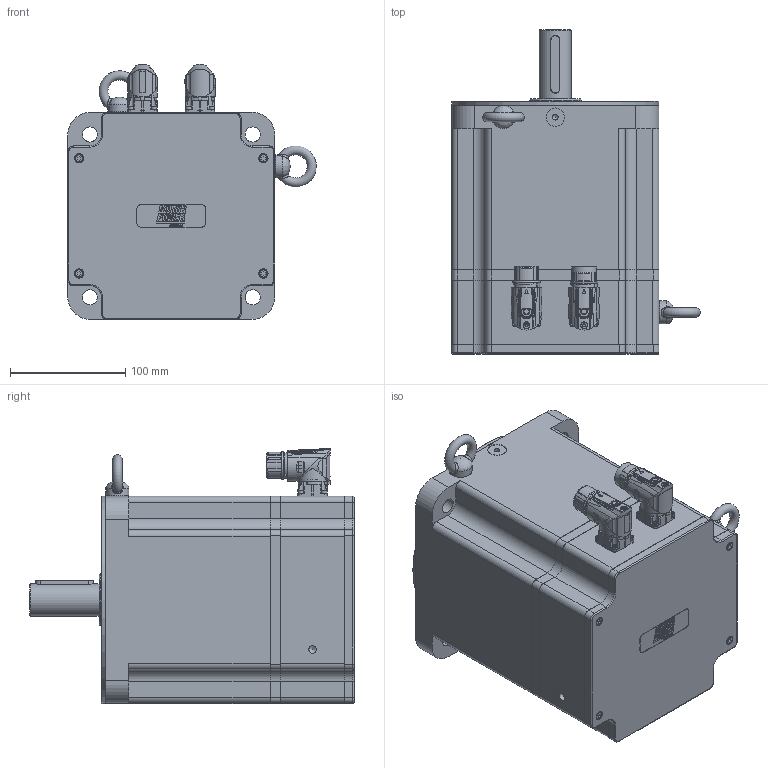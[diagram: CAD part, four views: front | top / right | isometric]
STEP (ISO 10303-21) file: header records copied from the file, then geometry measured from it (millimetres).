
FILE_DESCRIPTION(/* description */ ('Unknown'),/* implementation_level */ '2;1');
FILE_NAME(/* name */ 'TC4-180.7C.X X.X.3.XX.0.X.G2.00.00 Q0B808',/* time_stamp */ '2026-03-10T12:14:12+01:00',/* author */ ('Unknown'),/* organization */ ('Unknown'),/* preprocessor_version */ 'ST-DEVELOPER v19.4',/* originating_system */ 'Solid Edge',/* authorisation */ 'Unknown');
FILE_SCHEMA (('AUTOMOTIVE_DESIGN {1 0 10303 214 3 1 1}'));
Products named in the file (16): Q0B808 7C VUOTO; Calotta TC4-180 V8; 005911000185; 003251040631; 005911000479; 003155002230; 005113000610; 005911000106; 003003199966; 005119001064; Coperchio campana TC4-180; 007117000456; 005911000180; 005321000010; 007117000454; Corpo TC4-180 7C
Assembly tree (33 placements, depth 2):
  Q0B808 7C VUOTO
    Calotta TC4-180 V8
    005911000185  x8
    003251040631
    005911000479  x8
    003155002230
    005113000610
    005911000106
    003003199966
    005119001064
    Coperchio campana TC4-180
    007117000456
    005911000180  x4
    005321000010  x2
    007117000454
    Corpo TC4-180 7C
Bounding box: 215.96 x 281.5 x 221.5 mm (x, y, z)
Volume: 2914438.5 mm3; surface area: 641244.5 mm2
Topology: 35 solids, 35 shells, 2256 faces, 5660 edges, 3630 vertices
Faces by surface type: plane 949, cylinder 522, cone 307, bspline 270, torus 149, sphere 59
Full cylindrical faces by diameter (mm): 0.5 x1, 1 x21, 1.2 x17, 1.4 x4, 2 x4, 2.013 x16, 2.5 x8, 2.8 x4, 3 x12, 3.242 x8, 4 x5, 4.134 x24, 4.2 x8, 4.5 x10, 4.7 x8, 4.917 x2, 5 x8, 5.5 x10, 5.8 x1, 5.9 x2, 6.647 x14, 6.8 x1, 7 x7, 8 x7, 8.376 x2, 9 x4, 10 x3, 15 x1, 15.2 x1, 16 x1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
Entity records: 77601 total; most frequent: CARTESIAN_POINT 20252, ORIENTED_EDGE 8956, DIRECTION 8638, EDGE_CURVE 4478, AXIS2_PLACEMENT_3D 3361, VERTEX_POINT 3121, FACE_BOUND 2669, EDGE_LOOP 2638
